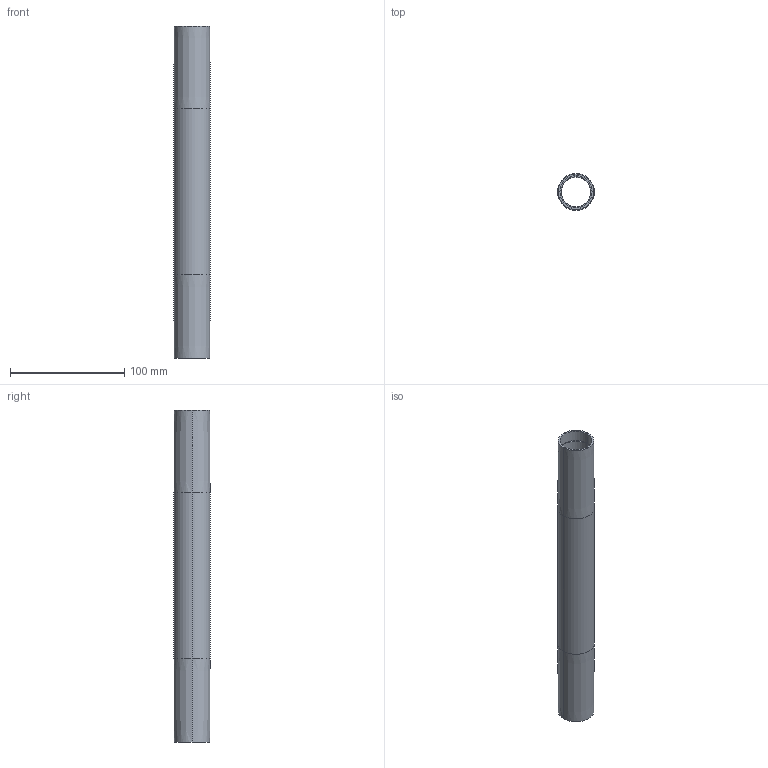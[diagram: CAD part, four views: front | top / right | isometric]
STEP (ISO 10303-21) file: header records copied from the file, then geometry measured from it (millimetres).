
FILE_DESCRIPTION (( 'STEP AP214' ), '1' );
FILE_NAME ('084.801.019.270.STEP', '2021-02-05T15:56:35', ( '' ), ( '' ), 'SwSTEP 2.0', 'SolidWorks 2018', '' );
FILE_SCHEMA (( 'AUTOMOTIVE_DESIGN' ));
Length unit declared in the file: millimetre
Products named in the file (1): 084.801.019.270
Bounding box: 32 x 32 x 290 mm (x, y, z)
Volume: 73959.6 mm3; surface area: 53187.5 mm2
Topology: 1 solids, 1 shells, 16 faces, 32 edges, 20 vertices
Faces by surface type: cylinder 8, cone 4, plane 4
Entity records: 462 total; most frequent: DIRECTION 86, CARTESIAN_POINT 69, ORIENTED_EDGE 64, AXIS2_PLACEMENT_3D 37, EDGE_CURVE 32, CIRCLE 20, VERTEX_POINT 20, EDGE_LOOP 20
